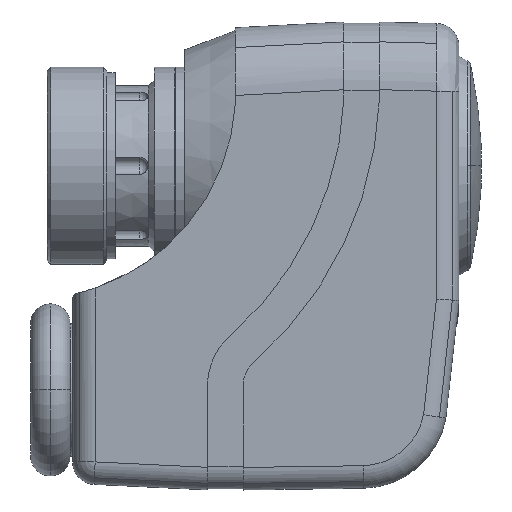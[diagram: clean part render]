
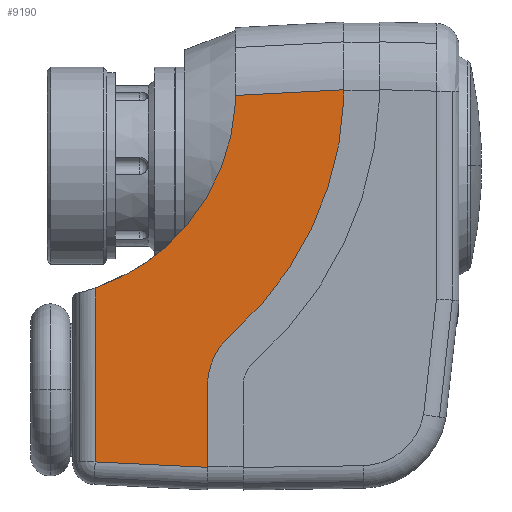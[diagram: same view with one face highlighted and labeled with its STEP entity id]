
A CAD part, left-side view. The second image highlights one B-rep face of the part: STEP entity #9190.
In plain terms, the highlighted planar face has unit normal (-1, 0, 0).
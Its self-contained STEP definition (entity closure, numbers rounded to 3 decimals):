
#7922=CARTESIAN_POINT('',(-24.0,-29.674,-33.73));
#7923=VERTEX_POINT('',#7922);
#7932=CARTESIAN_POINT('',(-24.0,-28.456,-38.173));
#7933=VERTEX_POINT('',#7932);
#7934=CARTESIAN_POINT('',(-24.0,-40.311,-39.034));
#7935=DIRECTION('',(1.,0.,0.));
#7936=DIRECTION('',(0.,0.895,0.446));
#7937=AXIS2_PLACEMENT_3D('',#7934,#7935,#7936);
#7938=CIRCLE('',#7937,11.886);
#7939=EDGE_CURVE('',#7933,#7923,#7938,.T.);
#7964=CARTESIAN_POINT('',(-24.,-46.885,-11.122));
#7965=VERTEX_POINT('',#7964);
#7974=CARTESIAN_POINT('',(-24.0,-32.489,-30.084));
#7975=VERTEX_POINT('',#7974);
#7976=CARTESIAN_POINT('',(-24.,6.329,14.332));
#7977=DIRECTION('',(-1.0,0.,0.));
#7978=DIRECTION('',(0.,-0.902,-0.432));
#7979=AXIS2_PLACEMENT_3D('',#7976,#7977,#7978);
#7980=CIRCLE('',#7979,58.989);
#7981=EDGE_CURVE('',#7975,#7965,#7980,.T.);
#8058=CARTESIAN_POINT('',(-24.0,-33.377,12.472));
#8059=VERTEX_POINT('',#8058);
#8067=CARTESIAN_POINT('',(-24.0,-52.613,13.482));
#8068=VERTEX_POINT('',#8067);
#8069=CARTESIAN_POINT('',(-24.0,-33.377,12.472));
#8070=DIRECTION('',(0.0,-0.999,0.052));
#8071=VECTOR('',#8070,19.262);
#8072=LINE('',#8069,#8071);
#8073=EDGE_CURVE('',#8059,#8068,#8072,.T.);
#8142=CARTESIAN_POINT('',(-24.0,-28.456,-53.478));
#8143=VERTEX_POINT('',#8142);
#8151=CARTESIAN_POINT('',(-24.0,-8.5,-52.519));
#8152=VERTEX_POINT('',#8151);
#8153=CARTESIAN_POINT('',(-24.0,-28.456,-53.478));
#8154=DIRECTION('',(0.0,0.999,0.048));
#8155=VECTOR('',#8154,19.98);
#8156=LINE('',#8153,#8155);
#8157=EDGE_CURVE('',#8143,#8152,#8156,.T.);
#8438=CARTESIAN_POINT('',(-24.,-24.723,-10.6));
#8439=VERTEX_POINT('',#8438);
#8446=CARTESIAN_POINT('',(-24.0,-33.377,10.989));
#8447=VERTEX_POINT('',#8446);
#8448=CARTESIAN_POINT('',(-24.0,3.399,13.203));
#8449=DIRECTION('',(-1.0,0.,0.));
#8450=DIRECTION('',(0.,-0.763,-0.646));
#8451=AXIS2_PLACEMENT_3D('',#8448,#8449,#8450);
#8452=CIRCLE('',#8451,36.843);
#8453=EDGE_CURVE('',#8439,#8447,#8452,.T.);
#8510=CARTESIAN_POINT('',(-24.0,-8.5,-21.666));
#8511=VERTEX_POINT('',#8510);
#8525=CARTESIAN_POINT('',(-24.0,3.399,13.203));
#8526=DIRECTION('',(-1.0,0.,0.));
#8527=DIRECTION('',(0.,-0.763,-0.646));
#8528=AXIS2_PLACEMENT_3D('',#8525,#8526,#8527);
#8529=CIRCLE('',#8528,36.843);
#8530=EDGE_CURVE('',#8511,#8439,#8529,.T.);
#8799=CARTESIAN_POINT('',(-24.0,-8.5,-52.519));
#8800=DIRECTION('',(0.0,0.0,1.0));
#8801=VECTOR('',#8800,30.853);
#8802=LINE('',#8799,#8801);
#8803=EDGE_CURVE('',#8152,#8511,#8802,.T.);
#9006=CARTESIAN_POINT('',(-24.0,-28.456,-53.478));
#9007=DIRECTION('',(0.0,0.0,1.0));
#9008=VECTOR('',#9007,15.305);
#9009=LINE('',#9006,#9008);
#9010=EDGE_CURVE('',#8143,#7933,#9009,.T.);
#9089=CARTESIAN_POINT('',(-24.0,-52.613,11.986));
#9090=VERTEX_POINT('',#9089);
#9091=CARTESIAN_POINT('',(-24.0,-52.613,11.986));
#9092=DIRECTION('',(0.0,0.0,1.0));
#9093=VECTOR('',#9092,1.496);
#9094=LINE('',#9091,#9093);
#9095=EDGE_CURVE('',#9090,#8068,#9094,.T.);
#9143=CARTESIAN_POINT('',(-24.0,-33.377,10.989));
#9144=DIRECTION('',(0.0,0.0,1.0));
#9145=VECTOR('',#9144,1.483);
#9146=LINE('',#9143,#9145);
#9147=EDGE_CURVE('',#8447,#8059,#9146,.T.);
#9159=CARTESIAN_POINT('',(-24.0,-42.657,-18.876));
#9160=DIRECTION('',(-1.0,0.0,0.0));
#9161=DIRECTION('',(0.0,0.0,-1.0));
#9162=AXIS2_PLACEMENT_3D('',#9159,#9160,#9161);
#9163=PLANE('',#9162);
#9164=ORIENTED_EDGE('',*,*,#8803,.F.);
#9165=ORIENTED_EDGE('',*,*,#8157,.F.);
#9166=ORIENTED_EDGE('',*,*,#9010,.T.);
#9167=ORIENTED_EDGE('',*,*,#7939,.T.);
#9168=CARTESIAN_POINT('',(-24.0,-40.311,-39.034));
#9169=DIRECTION('',(1.,0.,0.));
#9170=DIRECTION('',(0.,0.895,0.446));
#9171=AXIS2_PLACEMENT_3D('',#9168,#9169,#9170);
#9172=CIRCLE('',#9171,11.886);
#9173=EDGE_CURVE('',#7923,#7975,#9172,.T.);
#9174=ORIENTED_EDGE('',*,*,#9173,.T.);
#9175=ORIENTED_EDGE('',*,*,#7981,.T.);
#9176=CARTESIAN_POINT('',(-24.,6.329,14.332));
#9177=DIRECTION('',(-1.0,0.,0.));
#9178=DIRECTION('',(0.,-0.902,-0.432));
#9179=AXIS2_PLACEMENT_3D('',#9176,#9177,#9178);
#9180=CIRCLE('',#9179,58.989);
#9181=EDGE_CURVE('',#7965,#9090,#9180,.T.);
#9182=ORIENTED_EDGE('',*,*,#9181,.T.);
#9183=ORIENTED_EDGE('',*,*,#9095,.T.);
#9184=ORIENTED_EDGE('',*,*,#8073,.F.);
#9185=ORIENTED_EDGE('',*,*,#9147,.F.);
#9186=ORIENTED_EDGE('',*,*,#8453,.F.);
#9187=ORIENTED_EDGE('',*,*,#8530,.F.);
#9188=EDGE_LOOP('',(#9164,#9165,#9166,#9167,#9174,#9175,#9182,#9183,#9184,#9185,#9186,#9187));
#9189=FACE_OUTER_BOUND('',#9188,.T.);
#9190=ADVANCED_FACE('',(#9189),#9163,.T.);
